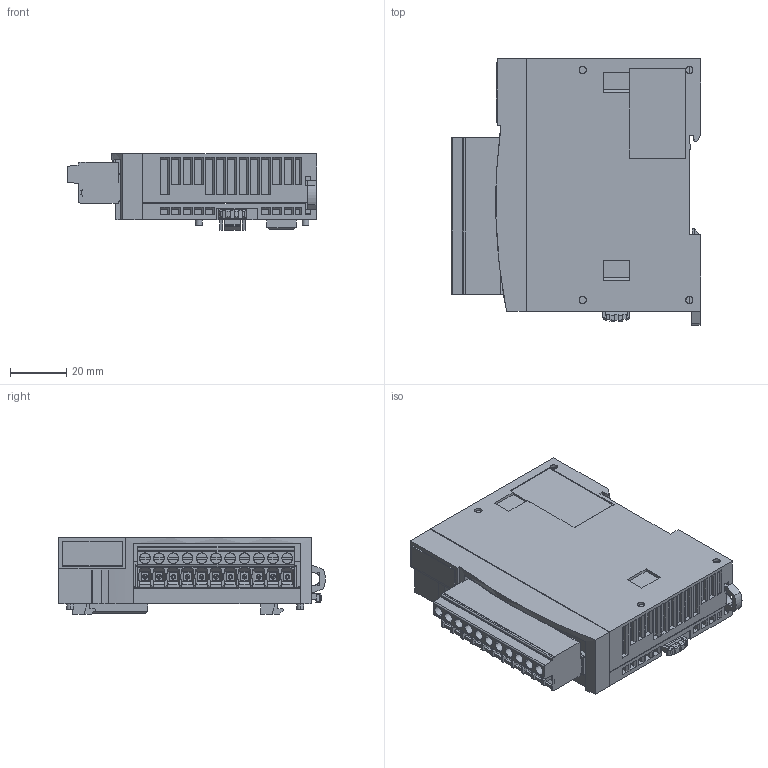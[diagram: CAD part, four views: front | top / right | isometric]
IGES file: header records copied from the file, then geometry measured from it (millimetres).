
Start section: SolidWorks IGES file using analytic representation for surfaces
Global section: file name: C:\IDEC_RD\WEB公開データ\_FC6\IGES\OUTSIDE-FC6A-#08##.igs; native system: SolidWorks 2014; preprocessor: SolidWorks 2014; author: 1003856; date: 160112.131141; units: millimetre
Bounding box: 88.8 x 95.11 x 27.4 mm (x, y, z)
Surface area: 56171.3 mm2 (no closed solid volume)
Topology: 0 solids, 0 shells, 2307 faces, 17362 edges, 17310 vertices
Faces by surface type: bspline 1794, revolution 513
